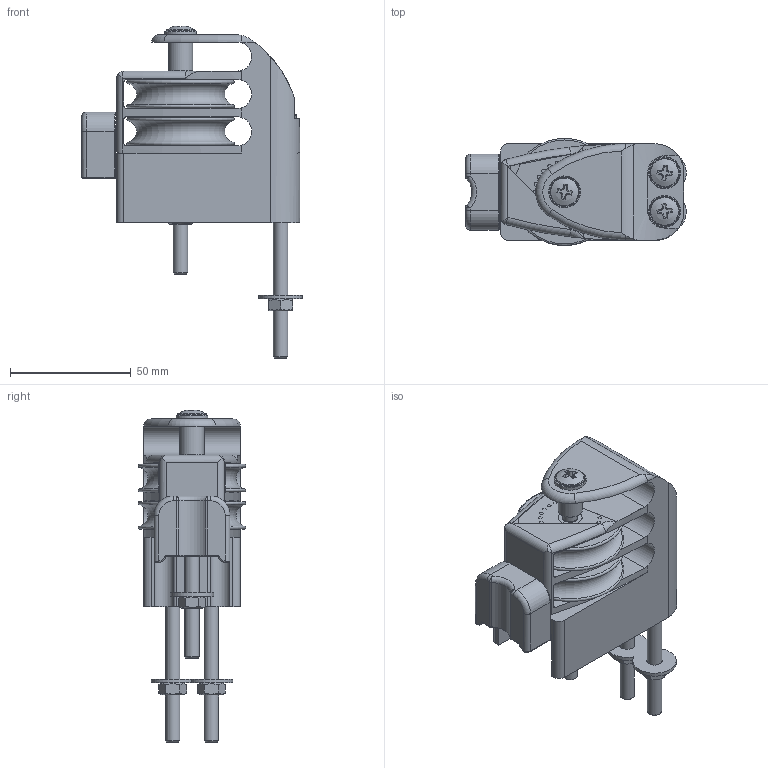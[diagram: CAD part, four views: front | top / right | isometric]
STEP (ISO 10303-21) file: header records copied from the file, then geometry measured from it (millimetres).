
FILE_DESCRIPTION(/* description */ (''),/* implementation_level */ '2;1');
FILE_NAME(/* name */ '\\SERVER2K12\Disegni CAD\Cad Library\3D - STP\Cars\4Race\4275.stp',/* time_stamp */ '2018-10-05T11:22:35+02:00',/* author */ ('francesca'),/* organization */ (''),/* preprocessor_version */ 'ST-DEVELOPER v16.5',/* originating_system */ 'Autodesk Inventor 2017',/* authorisation */ '');
FILE_SCHEMA (('AUTOMOTIVE_DESIGN { 1 0 10303 214 3 1 1 }'));
Length unit declared in the file: millimetre
Products named in the file (1): 18100503
Bounding box: 91.48 x 44.5 x 137.69 mm (x, y, z)
Volume: 138951.8 mm3; surface area: 54796.1 mm2
Topology: 1 solids, 3 shells, 405 faces, 987 edges, 668 vertices
Faces by surface type: plane 137, sphere 101, cylinder 100, cone 34, torus 27, bspline 6
Full cylindrical faces by diameter (mm): 6 x8, 6.2 x10, 6.4 x3, 6.5 x3, 10 x5, 10.1 x1, 12 x3, 13.2 x3, 18 x1, 21.2 x1, 29 x1
Entity records: 10835 total; most frequent: CARTESIAN_POINT 2343, DIRECTION 1843, ORIENTED_EDGE 1492, AXIS2_PLACEMENT_3D 795, EDGE_CURVE 746, EDGE_LOOP 627, VERTEX_POINT 553, FACE_OUTER_BOUND 405
